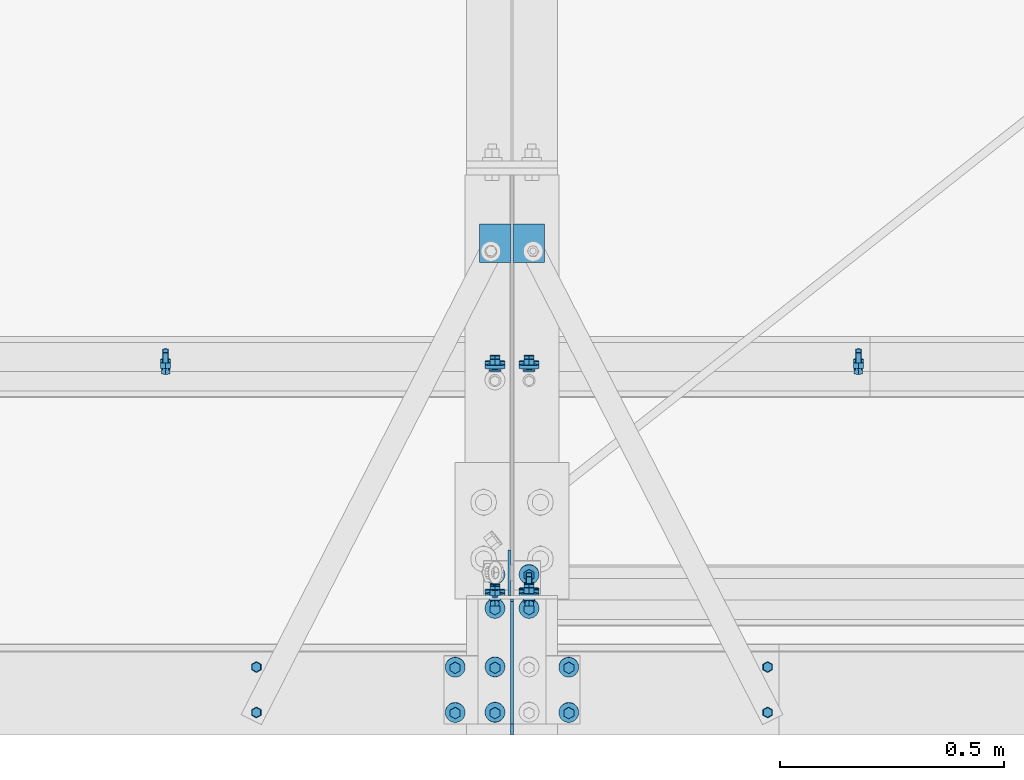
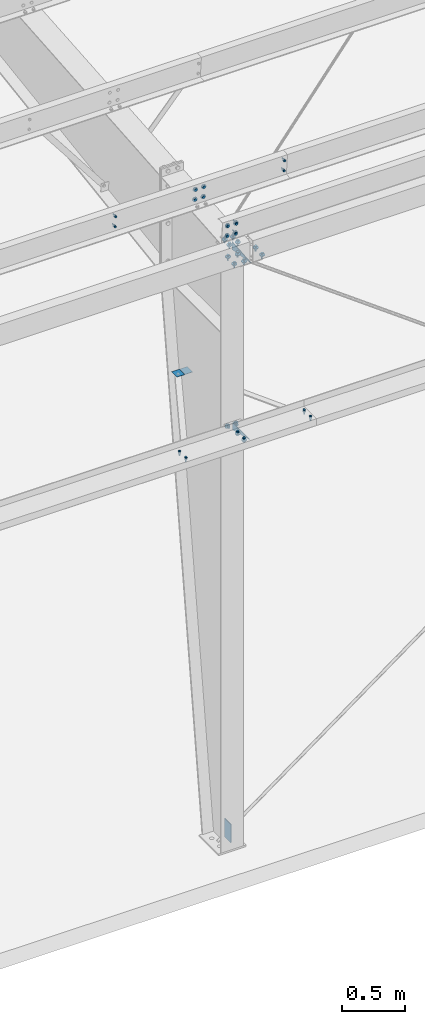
# One storey, part 75 of 185: 17 mechanical fasteners, 5 discrete accessories, 9 elements without a shape of their own.
"""IFC2X3 building model written with IfcOpenShell, lengths in millimetres."""

from ifc_helpers import new_model, si_unit, frame, origin_with_axes, origin_2d_with_axis, place, context, subcontext, project, spatial, polyline, rectangle, circle, outline, extrude, source, transform, mapped, material, type_object, element, aggregate, save


model = new_model("IFC2X3")

# Units and contexts
model_context = context("Model", 3, precision=1e-05, world=origin_with_axes())
body_context = subcontext(model_context, "Body", "Model", "MODEL_VIEW")
ifc_project = project(units=[si_unit("LENGTHUNIT", "METRE", prefix="MILLI"), si_unit("AREAUNIT", "SQUARE_METRE"), si_unit("VOLUMEUNIT", "CUBIC_METRE"), si_unit("MASSUNIT", "GRAM", prefix="KILO"), si_unit("TIMEUNIT", "SECOND"), si_unit("PLANEANGLEUNIT", "RADIAN"), si_unit("SOLIDANGLEUNIT", "STERADIAN"), si_unit("THERMODYNAMICTEMPERATUREUNIT", "DEGREE_CELSIUS"), si_unit("LUMINOUSINTENSITYUNIT", "LUMEN")], contexts=[model_context])

# Site, building, storey
site_placement = place(None, origin_with_axes())
site = spatial("IfcSite", under=ifc_project, at=site_placement, Name="Undefined", CompositionType="ELEMENT")
building_placement = place(site_placement, origin_with_axes())
building = spatial("IfcBuilding", under=site, at=building_placement, Name="Undefined", CompositionType="ELEMENT")
storey_placement = place(building_placement, origin_with_axes())
storey = spatial("IfcBuildingStorey", under=building, at=storey_placement, Name="Undefined", CompositionType="ELEMENT", Elevation=0.0)

# Assembly, mechanical fasteners
assembly_1_placement = place(storey_placement, origin_with_axes())
assembly_1 = element("IfcElementAssembly", 1, at=assembly_1_placement, inside=storey, Name="Steel Assembly", AssemblyPlace="NOTDEFINED", PredefinedType="RIGID_FRAME")
ifc_material_1 = material(Name="Undefined")
discrete_accessory_type_1 = type_object("IfcDiscreteAccessoryType", Name="Bolt assembly")
shared_shape_1 = source(origin_with_axes(), body_context, "Body", "SweptSolid", [
    extrude(circle(Radius=7.14374971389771, at=origin_2d_with_axis()), frame((0.0, -1.59000001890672, 0.0), z_axis=(0.0, 1.0, 0.0), x_axis=(1.0, 0.0, 0.0)), (0.0, 0.0, 1.0), 3.3),
    extrude(circle(Radius=13.4937496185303, at=origin_2d_with_axis()), frame((0.0, -5.5587500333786, 0.0), z_axis=(0.0, 1.0, 0.0), x_axis=(1.0, 0.0, 0.0)), (0.0, 0.0, 1.0), 4.0),
    extrude(circle(Radius=22.2250003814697, at=origin_2d_with_axis()), frame((0.0, 1.5900000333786, 0.0), z_axis=(0.0, 1.0, 0.0), x_axis=(1.0, 0.0, 0.0)), (0.0, 0.0, 1.0), 7.9),
    extrude(outline(polyline([(12.8316099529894, 0.0), (6.4158049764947, 11.1125001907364), (-6.4158049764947, 11.1125001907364), (-12.8316099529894, 0.0), (-6.4158049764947, -11.1125001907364), (6.4158049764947, -11.1125001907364), (12.8316099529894, 0.0)])), frame((0.0, 9.5275000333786, 0.0), z_axis=(0.0, 1.0, 0.0), x_axis=(1.0, 0.0, 0.0)), (0.0, 0.0, 1.0), 12.3),
])
mechanical_fastener_1_placement = place(assembly_1_placement, frame((30137.1, 307.870484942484, 6070.6797900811), z_axis=(1.0, 0.0, 0.0), x_axis=(0.0, 0.0830454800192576, -0.996545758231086)))
mechanical_fastener_1 = element("IfcMechanicalFastener", 2, at=mechanical_fastener_1_placement, type_object=discrete_accessory_type_1, material=ifc_material_1, Name="Bolt assembly", NominalDiameter=12.6999998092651, NominalLength=38.0999984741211, context=body_context, shape_type="MappedRepresentation", body=[
    mapped(shared_shape_1, transform((0.0, 0.0, 0.0))),
    mapped(shared_shape_1, transform((101.599998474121, 0.0, 0.0))),
])
mechanical_fastener_2_placement = place(assembly_1_placement, frame((30060.9, 307.870484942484, 6070.6797900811), z_axis=(1.0, 0.0, 0.0), x_axis=(0.0, 0.0830454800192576, -0.996545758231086)))
mechanical_fastener_2 = element("IfcMechanicalFastener", 3, at=mechanical_fastener_2_placement, type_object=discrete_accessory_type_1, material=ifc_material_1, Name="Bolt assembly", NominalDiameter=12.6999998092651, NominalLength=38.0999984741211, context=body_context, shape_type="MappedRepresentation", body=[
    mapped(shared_shape_1, transform((0.0, 0.0, 0.0))),
    mapped(shared_shape_1, transform((101.599998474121, 0.0, 0.0))),
])

# Assembly, mechanical fastener
assembly_2_placement = place(storey_placement, origin_with_axes())
assembly_2 = element("IfcElementAssembly", 4, at=assembly_2_placement, inside=storey, Name="Steel Assembly", AssemblyPlace="NOTDEFINED", PredefinedType="RIGID_FRAME")
mechanical_fastener_3_placement = place(assembly_2_placement, frame((30137.1, 818.861779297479, 6113.26239802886), z_axis=(1.0, 0.0, 0.0), x_axis=(0.0, 0.0830454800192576, -0.996545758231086)))
mechanical_fastener_3 = element("IfcMechanicalFastener", 5, at=mechanical_fastener_3_placement, type_object=discrete_accessory_type_1, material=ifc_material_1, Name="Bolt assembly", NominalDiameter=12.6999998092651, NominalLength=38.0999984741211, context=body_context, shape_type="MappedRepresentation", body=[
    mapped(shared_shape_1, transform((0.0, 0.0, 0.0))),
    mapped(shared_shape_1, transform((101.599998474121, 0.0, 0.0))),
])
aggregate(assembly_2, [mechanical_fastener_3])

assembly_3_placement = place(storey_placement, origin_with_axes())
assembly_3 = element("IfcElementAssembly", 6, at=assembly_3_placement, inside=storey, Name="Steel Assembly", AssemblyPlace="NOTDEFINED", PredefinedType="RIGID_FRAME")
mechanical_fastener_4_placement = place(assembly_3_placement, frame((30060.9, 818.861779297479, 6113.26239802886), z_axis=(1.0, 0.0, 0.0), x_axis=(0.0, 0.0830454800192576, -0.996545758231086)))
mechanical_fastener_4 = element("IfcMechanicalFastener", 7, at=mechanical_fastener_4_placement, type_object=discrete_accessory_type_1, material=ifc_material_1, Name="Bolt assembly", NominalDiameter=12.6999998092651, NominalLength=38.0999984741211, context=body_context, shape_type="MappedRepresentation", body=[
    mapped(shared_shape_1, transform((0.0, 0.0, 0.0))),
    mapped(shared_shape_1, transform((101.599998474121, 0.0, 0.0))),
])

# Assembly, discrete accessories
assembly_4_placement = place(storey_placement, origin_with_axes())
assembly_4 = element("IfcElementAssembly", 8, at=assembly_4_placement, inside=storey, Name="Steel Assembly", AssemblyPlace="NOTDEFINED", PredefinedType="RIGID_FRAME")
ifc_material_2 = material(Name="STEEL/55")
discrete_accessory_type_2 = type_object("IfcDiscreteAccessoryType", Name="FLANGE BRACE FLIP")
discrete_accessory_1_placement = place(assembly_4_placement, frame((30096.61875, 1100.1216921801, 4163.4569751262), z_axis=(0.0, -1.0, 0.0), x_axis=(-1.0, 0.0, 0.0)))
discrete_accessory_1 = element("IfcDiscreteAccessory", 9, at=discrete_accessory_1_placement, type_object=discrete_accessory_type_2, material=ifc_material_2, Name="FLANGE BRACE FLIP", ObjectType="PL1/8\"X2 3/4\"", context=body_context, shape_type="SweptSolid", body=[
    extrude(rectangle(XDim=3.416, YDim=85.725, at=origin_2d_with_axis()), frame((69.8499999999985, 0.0, 0.0), z_axis=(-1.0, 0.0, 0.0), x_axis=(0.0, -1.0, 0.0)), (0.0, 0.0, 1.0), 69.8),
])
discrete_accessory_2_placement = place(assembly_4_placement, frame((30101.38125, 1100.1216921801, 4163.4569751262), z_axis=(0.0, -1.0, 0.0), x_axis=(1.0, 0.0, 0.0)))
discrete_accessory_2 = element("IfcDiscreteAccessory", 10, at=discrete_accessory_2_placement, type_object=discrete_accessory_type_2, material=ifc_material_2, Name="FLANGE BRACE FLIP", ObjectType="PL1/8\"X2 3/4\"", context=body_context, shape_type="SweptSolid", body=[
    extrude(rectangle(XDim=3.416, YDim=85.725, at=origin_2d_with_axis()), frame((69.8499999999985, 0.0, 0.0), z_axis=(-1.0, 0.0, 0.0), x_axis=(0.0, -1.0, 0.0)), (0.0, 0.0, 1.0), 69.8),
])
discrete_accessory_type_3 = type_object("IfcDiscreteAccessoryType", Name="BACKUP PL SINGLE SLOT")
discrete_accessory_3_placement = place(assembly_4_placement, frame((30093.4437512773, 363.476847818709, 256.515722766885), z_axis=(-0.000896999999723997, -0.999999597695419, 0.0), x_axis=(0.0, 0.0, -1.0)))
discrete_accessory_3 = element("IfcDiscreteAccessory", 11, at=discrete_accessory_3_placement, type_object=discrete_accessory_type_3, material=ifc_material_2, Name="BACKUP PL SINGLE SLOT", ObjectType="FL1/4\"X4\"", context=body_context, shape_type="SweptSolid", body=[
    extrude(rectangle(XDim=6.35, YDim=101.6, at=origin_2d_with_axis()), frame((177.800000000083, 0.0, 0.0), z_axis=(-1.0, 0.0, 0.0), x_axis=(0.0, -1.0, 0.0)), (0.0, 0.0, 1.0), 177.8),
])

# Assembly, mechanical fasteners
assembly_5_placement = place(storey_placement, origin_with_axes())
assembly_5 = element("IfcElementAssembly", 12, at=assembly_5_placement, inside=storey, Name="Steel Assembly", AssemblyPlace="NOTDEFINED", PredefinedType="RIGID_FRAME")
shared_shape_2 = source(origin_with_axes(), body_context, "Body", "SweptSolid", [
    extrude(circle(Radius=7.14374971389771, at=origin_2d_with_axis()), frame((0.0, 0.0, 0.0), z_axis=(0.0, 1.0, 0.0), x_axis=(1.0, 0.0, 0.0)), (0.0, 0.0, 1.0), 4.9),
    extrude(outline(polyline([(12.8316099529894, 0.0), (6.4158049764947, 11.1125001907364), (-6.4158049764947, 11.1125001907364), (-12.8316099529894, 0.0), (-6.4158049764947, -11.1125001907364), (6.4158049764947, -11.1125001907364), (12.8316099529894, 0.0)])), frame((0.0, 4.76000382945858, 0.0), z_axis=(0.0, 1.0, 0.0), x_axis=(1.0, 0.0, 0.0)), (0.0, 0.0, 1.0), 12.3),
])
mechanical_fastener_5_placement = place(assembly_5_placement, frame((30060.9, 307.870484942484, 6070.6797900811), z_axis=(1.0, 0.0, 0.0), x_axis=(0.0, 0.0830454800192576, -0.996545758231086)))
mechanical_fastener_5 = element("IfcMechanicalFastener", 13, at=mechanical_fastener_5_placement, type_object=discrete_accessory_type_1, material=ifc_material_1, Name="Bolt assembly", NominalDiameter=12.6999998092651, NominalLength=50.7999992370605, context=body_context, shape_type="MappedRepresentation", body=[
    mapped(shared_shape_2, transform((0.0, 0.0, 0.0))),
    mapped(shared_shape_2, transform((101.599998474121, 0.0, 0.0))),
])
shared_shape_3 = source(origin_with_axes(), body_context, "Body", "SweptSolid", [
    extrude(circle(Radius=7.14374971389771, at=origin_2d_with_axis()), frame((0.0, 0.0, 0.0), z_axis=(0.0, 1.0, 0.0), x_axis=(1.0, 0.0, 0.0)), (0.0, 0.0, 1.0), 4.9),
    extrude(outline(polyline([(12.8316099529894, 0.0), (6.4158049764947, 11.1125001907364), (-6.4158049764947, 11.1125001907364), (-12.8316099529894, 0.0), (-6.4158049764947, -11.1125001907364), (6.4158049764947, -11.1125001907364), (12.8316099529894, 0.0)])), frame((0.0, -11.9062498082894, 0.0), z_axis=(0.0, 1.0, 0.0), x_axis=(1.0, 0.0, 0.0)), (0.0, 0.0, 1.0), 7.9),
    extrude(circle(Radius=6.34999990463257, at=origin_2d_with_axis()), frame((0.0, -3.96874999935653, 0.0), z_axis=(0.0, 1.0, 0.0), x_axis=(1.0, 0.0, 0.0)), (0.0, 0.0, 1.0), 50.8),
    extrude(circle(Radius=13.4937496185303, at=origin_2d_with_axis()), frame((0.0, -3.96874999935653, 0.0), z_axis=(0.0, 1.0, 0.0), x_axis=(1.0, 0.0, 0.0)), (0.0, 0.0, 1.0), 4.0),
    extrude(circle(Radius=22.2250003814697, at=origin_2d_with_axis()), frame((0.0, 4.76000382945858, 0.0), z_axis=(0.0, 1.0, 0.0), x_axis=(1.0, 0.0, 0.0)), (0.0, 0.0, 1.0), 7.9),
    extrude(outline(polyline([(12.8316099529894, 0.0), (6.4158049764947, 11.1125001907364), (-6.4158049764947, 11.1125001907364), (-12.8316099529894, 0.0), (-6.4158049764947, -11.1125001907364), (6.4158049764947, -11.1125001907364), (12.8316099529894, 0.0)])), frame((0.0, 12.6975038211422, 0.0), z_axis=(0.0, 1.0, 0.0), x_axis=(1.0, 0.0, 0.0)), (0.0, 0.0, 1.0), 12.3),
])
mechanical_fastener_6_placement = place(assembly_5_placement, frame((30137.1, 307.870484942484, 6070.6797900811), z_axis=(1.0, 0.0, 0.0), x_axis=(0.0, 0.0830454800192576, -0.996545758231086)))
mechanical_fastener_6 = element("IfcMechanicalFastener", 14, at=mechanical_fastener_6_placement, type_object=discrete_accessory_type_1, material=ifc_material_1, Name="Bolt assembly", NominalDiameter=12.6999998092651, NominalLength=50.7999992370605, context=body_context, shape_type="MappedRepresentation", body=[
    mapped(shared_shape_3, transform((0.0, 0.0, 0.0))),
    mapped(shared_shape_3, transform((101.599998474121, 0.0, 0.0))),
])
aggregate(assembly_5, [mechanical_fastener_5, mechanical_fastener_6])

# Assembly, discrete accessory, mechanical fasteners
assembly_6_placement = place(storey_placement, origin_with_axes())
assembly_6 = element("IfcElementAssembly", 15, at=assembly_6_placement, inside=storey, Name="Steel Assembly", AssemblyPlace="NOTDEFINED", PredefinedType="RIGID_FRAME")
discrete_accessory_type_4 = type_object("IfcDiscreteAccessoryType", Name="Gusett")
discrete_accessory_4_placement = place(assembly_6_placement, frame((30099.0, 298.449999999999, 4089.4), z_axis=(1.0, 0.0, 0.0), x_axis=(0.0, 0.0, 1.0)))
discrete_accessory_4 = element("IfcDiscreteAccessory", 16, at=discrete_accessory_4_placement, type_object=discrete_accessory_type_4, material=ifc_material_2, Name="Gusett", ObjectType="FL1/4\"X2 3/4\"", context=body_context, shape_type="SweptSolid", body=[
    extrude(outline(polyline([(0.0, 0.0), (69.8499984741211, 0.0), (69.8499984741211, 273.049987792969), (0.0, 0.0)])), frame((0.0, 0.0, -3.175), z_axis=(0.0, 0.0, 1.0), x_axis=(1.0, 0.0, 0.0)), (0.0, 0.0, 1.0), 6.4),
])
shared_shape_4 = source(origin_with_axes(), body_context, "Body", "SweptSolid", [
    extrude(circle(Radius=7.14374971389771, at=origin_2d_with_axis()), frame((0.0, -0.1, 0.0), z_axis=(0.0, 1.0, 0.0), x_axis=(1.0, 0.0, 0.0)), (0.0, 0.0, 1.0), 8.0),
    extrude(circle(Radius=7.14374971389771, at=origin_2d_with_axis()), frame((0.0, -6.24999999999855, 0.0), z_axis=(0.0, 1.0, 0.0), x_axis=(1.0, 0.0, 0.0)), (0.0, 0.0, 1.0), 6.4),
    extrude(outline(polyline([(10.9985221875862, 0.0), (5.4992610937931, 9.52499961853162), (-5.4992610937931, 9.52499961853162), (-10.9985221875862, 0.0), (-5.4992610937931, -9.52499961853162), (5.4992610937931, -9.52499961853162), (10.9985221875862, 0.0)])), frame((0.0, -15.8750000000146, 0.0), z_axis=(0.0, 1.0, 0.0), x_axis=(1.0, 0.0, 0.0)), (0.0, 0.0, 1.0), 9.5),
    extrude(circle(Radius=6.34999990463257, at=origin_2d_with_axis()), frame((0.0, -6.34999953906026, 0.0), z_axis=(0.0, 1.0, 0.0), x_axis=(1.0, 0.0, 0.0)), (0.0, 0.0, 1.0), 38.1),
    extrude(circle(Radius=22.2250003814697, at=origin_2d_with_axis()), frame((0.0, 7.87399999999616, 0.0), z_axis=(0.0, 1.0, 0.0), x_axis=(1.0, 0.0, 0.0)), (0.0, 0.0, 1.0), 7.9),
    extrude(outline(polyline([(12.8316099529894, 0.0), (6.4158049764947, 11.1125001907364), (-6.4158049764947, 11.1125001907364), (-12.8316099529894, 0.0), (-6.4158049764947, -11.1125001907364), (6.4158049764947, -11.1125001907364), (12.8316099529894, 0.0)])), frame((0.0, 15.8114999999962, 0.0), z_axis=(0.0, 1.0, 0.0), x_axis=(1.0, 0.0, 0.0)), (0.0, 0.0, 1.0), 12.3),
])
mechanical_fastener_7_placement = place(assembly_6_placement, frame((30099.0, 304.8, 4127.5), z_axis=(1.0, 0.0, 0.0), x_axis=(0.0, 0.0, -1.0)))
mechanical_fastener_7 = element("IfcMechanicalFastener", 17, at=mechanical_fastener_7_placement, type_object=discrete_accessory_type_1, material=ifc_material_1, Name="Bolt assembly", NominalDiameter=12.6999998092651, NominalLength=38.0999984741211, context=body_context, shape_type="MappedRepresentation", body=[
    mapped(shared_shape_4, transform((0.0, 0.0, -38.0999984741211))),
    mapped(shared_shape_4, transform((0.0, 0.0, 38.0999984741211))),
])
shared_shape_5 = source(origin_with_axes(), body_context, "Body", "SweptSolid", [
    extrude(circle(Radius=7.14374971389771, at=origin_2d_with_axis()), frame((0.0, -1.4900000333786, 0.0), z_axis=(0.0, 1.0, 0.0), x_axis=(1.0, 0.0, 0.0)), (0.0, 0.0, 1.0), 3.2),
    extrude(circle(Radius=7.14374971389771, at=origin_2d_with_axis()), frame((0.0, -0.1, 0.0), z_axis=(0.0, 1.0, 0.0), x_axis=(1.0, 0.0, 0.0)), (0.0, 0.0, 1.0), 6.5),
    extrude(circle(Radius=7.14374971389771, at=origin_2d_with_axis()), frame((0.0, -1.4900000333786, 0.0), z_axis=(0.0, 1.0, 0.0), x_axis=(1.0, 0.0, 0.0)), (0.0, 0.0, 1.0), 3.2),
    extrude(outline(polyline([(10.9985221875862, 0.0), (5.4992610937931, 9.52499961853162), (-5.4992610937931, 9.52499961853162), (-10.9985221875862, 0.0), (-5.4992610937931, -9.52499961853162), (5.4992610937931, -9.52499961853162), (10.9985221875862, 0.0)])), frame((0.0, -15.0837496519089, 0.0), z_axis=(0.0, 1.0, 0.0), x_axis=(1.0, 0.0, 0.0)), (0.0, 0.0, 1.0), 9.5),
    extrude(circle(Radius=6.34999990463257, at=origin_2d_with_axis()), frame((0.0, -5.5587500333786, 0.0), z_axis=(0.0, 1.0, 0.0), x_axis=(1.0, 0.0, 0.0)), (0.0, 0.0, 1.0), 38.1),
    extrude(circle(Radius=13.4937496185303, at=origin_2d_with_axis()), frame((0.0, -5.5587500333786, 0.0), z_axis=(0.0, 1.0, 0.0), x_axis=(1.0, 0.0, 0.0)), (0.0, 0.0, 1.0), 4.0),
    extrude(circle(Radius=22.2250003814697, at=origin_2d_with_axis()), frame((0.0, 6.35000000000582, 0.0), z_axis=(0.0, 1.0, 0.0), x_axis=(1.0, 0.0, 0.0)), (0.0, 0.0, 1.0), 7.9),
    extrude(outline(polyline([(12.8316099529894, 0.0), (6.4158049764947, 11.1125001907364), (-6.4158049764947, 11.1125001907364), (-12.8316099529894, 0.0), (-6.4158049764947, -11.1125001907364), (6.4158049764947, -11.1125001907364), (12.8316099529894, 0.0)])), frame((0.0, 14.2875000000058, 0.0), z_axis=(0.0, 1.0, 0.0), x_axis=(1.0, 0.0, 0.0)), (0.0, 0.0, 1.0), 12.3),
])
mechanical_fastener_8_placement = place(assembly_6_placement, frame((30060.9, 50.7999992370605, 4165.6), z_axis=(-1.0, 0.0, 0.0), x_axis=(0.0, 1.0, 0.0)))
mechanical_fastener_8 = element("IfcMechanicalFastener", 18, at=mechanical_fastener_8_placement, type_object=discrete_accessory_type_1, material=ifc_material_1, Name="Bolt assembly", NominalDiameter=12.6999998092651, NominalLength=38.0999984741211, context=body_context, shape_type="MappedRepresentation", body=[
    mapped(shared_shape_5, transform((0.0, 0.0, 0.0))),
    mapped(shared_shape_5, transform((101.599998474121, 0.0, 0.0))),
])
aggregate(assembly_6, [mechanical_fastener_7, mechanical_fastener_8, discrete_accessory_4])

# Assembly, mechanical fasteners
assembly_7_placement = place(storey_placement, origin_with_axes())
assembly_7 = element("IfcElementAssembly", 19, at=assembly_7_placement, inside=storey, Name="Steel Assembly", AssemblyPlace="NOTDEFINED", PredefinedType="RIGID_FRAME")
shared_shape_6 = source(origin_with_axes(), body_context, "Body", "SweptSolid", [
    extrude(circle(Radius=7.14374971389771, at=origin_2d_with_axis()), frame((0.0, -1.4900000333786, 0.0), z_axis=(0.0, 1.0, 0.0), x_axis=(1.0, 0.0, 0.0)), (0.0, 0.0, 1.0), 3.2),
    extrude(circle(Radius=7.14374971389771, at=origin_2d_with_axis()), frame((0.0, -1.4900000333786, 0.0), z_axis=(0.0, 1.0, 0.0), x_axis=(1.0, 0.0, 0.0)), (0.0, 0.0, 1.0), 3.2),
    extrude(outline(polyline([(10.9985221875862, 0.0), (5.4992610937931, 9.52499961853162), (-5.4992610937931, 9.52499961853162), (-10.9985221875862, 0.0), (-5.4992610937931, -9.52499961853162), (5.4992610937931, -9.52499961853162), (10.9985221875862, 0.0)])), frame((0.0, -11.1149996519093, 0.0), z_axis=(0.0, 1.0, 0.0), x_axis=(1.0, 0.0, 0.0)), (0.0, 0.0, 1.0), 9.5),
    extrude(circle(Radius=6.34999990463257, at=origin_2d_with_axis()), frame((0.0, -1.59000001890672, 0.0), z_axis=(0.0, 1.0, 0.0), x_axis=(1.0, 0.0, 0.0)), (0.0, 0.0, 1.0), 38.1),
    extrude(outline(polyline([(12.8316099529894, 0.0), (6.4158049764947, 11.1125001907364), (-6.4158049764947, 11.1125001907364), (-12.8316099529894, 0.0), (-6.4158049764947, -11.1125001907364), (6.4158049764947, -11.1125001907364), (12.8316099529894, 0.0)])), frame((0.0, 1.5900000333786, 0.0), z_axis=(0.0, 1.0, 0.0), x_axis=(1.0, 0.0, 0.0)), (0.0, 0.0, 1.0), 12.3),
])
mechanical_fastener_9_placement = place(assembly_7_placement, frame((30670.5, 50.8, 4165.6), z_axis=(-1.0, 0.0, 0.0), x_axis=(0.0, 1.0, 0.0)))
mechanical_fastener_9 = element("IfcMechanicalFastener", 20, at=mechanical_fastener_9_placement, type_object=discrete_accessory_type_1, material=ifc_material_1, Name="Bolt assembly", NominalDiameter=12.6999998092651, NominalLength=38.0999984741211, context=body_context, shape_type="MappedRepresentation", body=[
    mapped(shared_shape_6, transform((0.0, 0.0, 0.0))),
    mapped(shared_shape_6, transform((101.599998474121, 0.0, 0.0))),
])
mechanical_fastener_10_placement = place(assembly_7_placement, frame((29527.5, 50.8, 4165.6), z_axis=(-1.0, 0.0, 0.0), x_axis=(0.0, 1.0, 0.0)))
mechanical_fastener_10 = element("IfcMechanicalFastener", 21, at=mechanical_fastener_10_placement, type_object=discrete_accessory_type_1, material=ifc_material_1, Name="Bolt assembly", NominalDiameter=12.6999998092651, NominalLength=38.0999984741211, context=body_context, shape_type="MappedRepresentation", body=[
    mapped(shared_shape_6, transform((0.0, 0.0, 0.0))),
    mapped(shared_shape_6, transform((101.599998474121, 0.0, 0.0))),
])
aggregate(assembly_7, [mechanical_fastener_9, mechanical_fastener_10])

# Mechanical fastener
mechanical_fastener_11_placement = place(assembly_3_placement, frame((30873.7, 818.861779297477, 6113.26239802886), z_axis=(1.0, 0.0, 0.0), x_axis=(0.0, 0.0830454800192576, -0.996545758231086)))
mechanical_fastener_11 = element("IfcMechanicalFastener", 22, at=mechanical_fastener_11_placement, type_object=discrete_accessory_type_1, material=ifc_material_1, Name="Bolt assembly", NominalDiameter=12.6999998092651, NominalLength=38.0999984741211, context=body_context, shape_type="MappedRepresentation", body=[
    mapped(shared_shape_6, transform((0.0, 0.0, 0.0))),
    mapped(shared_shape_6, transform((101.599998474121, 0.0, 0.0))),
])

mechanical_fastener_12_placement = place(assembly_3_placement, frame((29324.3, 818.861779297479, 6113.26239802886), z_axis=(1.0, 0.0, 0.0), x_axis=(0.0, 0.0830454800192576, -0.996545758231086)))
mechanical_fastener_12 = element("IfcMechanicalFastener", 23, at=mechanical_fastener_12_placement, type_object=discrete_accessory_type_1, material=ifc_material_1, Name="Bolt assembly", NominalDiameter=12.6999998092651, NominalLength=38.0999984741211, context=body_context, shape_type="MappedRepresentation", body=[
    mapped(shared_shape_6, transform((0.0, 0.0, 0.0))),
    mapped(shared_shape_6, transform((101.599998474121, 0.0, 0.0))),
])

aggregate(assembly_3, [mechanical_fastener_4, mechanical_fastener_11, mechanical_fastener_12])

# Discrete accessory
discrete_accessory_type_5 = type_object("IfcDiscreteAccessoryType", Name="Gusset")
discrete_accessory_5_placement = place(assembly_4_placement, frame((30099.0, 304.8, 5909.51790803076), z_axis=(1.0, 0.0, 0.0), x_axis=(0.0, -0.996548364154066, -0.0830142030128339)))
discrete_accessory_5 = element("IfcDiscreteAccessory", 24, at=discrete_accessory_5_placement, type_object=discrete_accessory_type_5, material=ifc_material_2, Name="Gusset", ObjectType="1/4\"X2 15/16\"", context=body_context, shape_type="SweptSolid", body=[
    extrude(outline(polyline([(0.0, 0.0), (305.244781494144, -7.45785655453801e-11), (6.32568216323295, 75.9369888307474), (0.0, 0.0)])), frame((0.0, 0.0, -3.175), z_axis=(0.0, 0.0, 1.0), x_axis=(1.0, 0.0, 0.0)), (0.0, 0.0, 1.0), 6.4),
])

# Mechanical fastener
shared_shape_7 = source(origin_with_axes(), body_context, "Body", "SweptSolid", [
    extrude(circle(Radius=7.14374971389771, at=origin_2d_with_axis()), frame((0.0, -0.1, 0.0), z_axis=(0.0, 1.0, 0.0), x_axis=(1.0, 0.0, 0.0)), (0.0, 0.0, 1.0), 8.1),
    extrude(circle(Radius=7.14374971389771, at=origin_2d_with_axis()), frame((0.0, -3.08000006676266, 0.0), z_axis=(0.0, 1.0, 0.0), x_axis=(1.0, 0.0, 0.0)), (0.0, 0.0, 1.0), 3.2),
    extrude(outline(polyline([(12.8316099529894, 0.0), (6.4158049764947, 11.1125001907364), (-6.4158049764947, 11.1125001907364), (-12.8316099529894, 0.0), (-6.4158049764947, -11.1125001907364), (6.4158049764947, -11.1125001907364), (12.8316099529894, 0.0)])), frame((0.0, -11.1175003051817, 0.0), z_axis=(0.0, 1.0, 0.0), x_axis=(1.0, 0.0, 0.0)), (0.0, 0.0, 1.0), 7.9),
    extrude(circle(Radius=6.34999990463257, at=origin_2d_with_axis()), frame((0.0, -3.18000030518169, 0.0), z_axis=(0.0, 1.0, 0.0), x_axis=(1.0, 0.0, 0.0)), (0.0, 0.0, 1.0), 50.8),
    extrude(circle(Radius=22.2250003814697, at=origin_2d_with_axis()), frame((0.0, 7.95019856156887, 0.0), z_axis=(0.0, 1.0, 0.0), x_axis=(1.0, 0.0, 0.0)), (0.0, 0.0, 1.0), 7.9),
    extrude(outline(polyline([(12.8316099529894, 0.0), (6.4158049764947, 11.1125001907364), (-6.4158049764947, 11.1125001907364), (-12.8316099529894, 0.0), (-6.4158049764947, -11.1125001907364), (6.4158049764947, -11.1125001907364), (12.8316099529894, 0.0)])), frame((0.0, 15.8876985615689, 0.0), z_axis=(0.0, 1.0, 0.0), x_axis=(1.0, 0.0, 0.0)), (0.0, 0.0, 1.0), 12.3),
])
mechanical_fastener_13_placement = place(assembly_1_placement, frame((30099.0, 282.558222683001, 5915.64218374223), z_axis=(1.0, 0.0, 0.0), x_axis=(0.0, -0.996545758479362, -0.0830454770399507)))
mechanical_fastener_13 = element("IfcMechanicalFastener", 25, at=mechanical_fastener_13_placement, type_object=discrete_accessory_type_1, material=ifc_material_1, Name="Bolt assembly", NominalDiameter=12.6999998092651, NominalLength=50.7999992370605, context=body_context, shape_type="MappedRepresentation", body=[
    mapped(shared_shape_7, transform((0.0, 0.0, -38.0999984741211))),
    mapped(shared_shape_7, transform((0.0, 0.0, 38.0999984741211))),
])

aggregate(assembly_1, [mechanical_fastener_1, mechanical_fastener_2, mechanical_fastener_13])

shared_shape_8 = source(origin_with_axes(), body_context, "Body", "SweptSolid", [
    extrude(circle(Radius=7.14374971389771, at=origin_2d_with_axis()), frame((0.0, -4.65999985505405, 0.0), z_axis=(0.0, 1.0, 0.0), x_axis=(1.0, 0.0, 0.0)), (0.0, 0.0, 1.0), 4.8),
    extrude(circle(Radius=7.14374971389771, at=origin_2d_with_axis()), frame((0.0, -0.1, 0.0), z_axis=(0.0, 1.0, 0.0), x_axis=(1.0, 0.0, 0.0)), (0.0, 0.0, 1.0), 8.1),
    extrude(outline(polyline([(12.8316099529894, 0.0), (6.4158049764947, 11.1125001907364), (-6.4158049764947, 11.1125001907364), (-12.8316099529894, 0.0), (-6.4158049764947, -11.1125001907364), (6.4158049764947, -11.1125001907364), (12.8316099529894, 0.0)])), frame((0.0, -12.697499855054, 0.0), z_axis=(0.0, 1.0, 0.0), x_axis=(1.0, 0.0, 0.0)), (0.0, 0.0, 1.0), 7.9),
    extrude(circle(Radius=6.34999990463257, at=origin_2d_with_axis()), frame((0.0, -4.75999985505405, 0.0), z_axis=(0.0, 1.0, 0.0), x_axis=(1.0, 0.0, 0.0)), (0.0, 0.0, 1.0), 50.8),
    extrude(circle(Radius=22.2250003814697, at=origin_2d_with_axis()), frame((0.0, 7.95019856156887, 0.0), z_axis=(0.0, 1.0, 0.0), x_axis=(1.0, 0.0, 0.0)), (0.0, 0.0, 1.0), 7.9),
    extrude(outline(polyline([(12.8316099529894, 0.0), (6.4158049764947, 11.1125001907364), (-6.4158049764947, 11.1125001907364), (-12.8316099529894, 0.0), (-6.4158049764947, -11.1125001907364), (6.4158049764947, -11.1125001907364), (12.8316099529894, 0.0)])), frame((0.0, 15.8876985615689, 0.0), z_axis=(0.0, 1.0, 0.0), x_axis=(1.0, 0.0, 0.0)), (0.0, 0.0, 1.0), 12.3),
])
mechanical_fastener_14_placement = place(assembly_4_placement, frame((30099.0, 358.495009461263, 5921.97024930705), z_axis=(-1.0, 0.0, 0.0), x_axis=(0.0, 0.996545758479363, 0.0830454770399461)))
mechanical_fastener_14 = element("IfcMechanicalFastener", 26, at=mechanical_fastener_14_placement, type_object=discrete_accessory_type_1, material=ifc_material_1, Name="Bolt assembly", NominalDiameter=12.6999998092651, NominalLength=50.7999992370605, context=body_context, shape_type="MappedRepresentation", body=[
    mapped(shared_shape_8, transform((0.0, 0.0, -38.0999984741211))),
    mapped(shared_shape_8, transform((0.0, 0.0, 38.0999984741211))),
])

aggregate(assembly_4, [discrete_accessory_3, discrete_accessory_1, discrete_accessory_2, discrete_accessory_5, mechanical_fastener_14])

# Assembly, mechanical fasteners
assembly_8_placement = place(storey_placement, origin_with_axes())
assembly_8 = element("IfcElementAssembly", 27, at=assembly_8_placement, inside=storey, Name="Steel Assembly", AssemblyPlace="NOTDEFINED", PredefinedType="RIGID_FRAME")
shared_shape_9 = source(origin_with_axes(), body_context, "Body", "SweptSolid", [
    extrude(circle(Radius=7.14499998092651, at=origin_2d_with_axis()), frame((0.0, -7.8375000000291, 0.0), z_axis=(0.0, 1.0, 0.0), x_axis=(1.0, 0.0, 0.0)), (0.0, 0.0, 1.0), 6.4),
    extrude(circle(Radius=7.14499998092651, at=origin_2d_with_axis()), frame((0.0, -1.58749999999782, 0.0), z_axis=(0.0, 1.0, 0.0), x_axis=(1.0, 0.0, 0.0)), (0.0, 0.0, 1.0), 1.6),
    extrude(circle(Radius=7.14499998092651, at=origin_2d_with_axis()), frame((0.0, -0.1, 0.0), z_axis=(0.0, 1.0, 0.0), x_axis=(1.0, 0.0, 0.0)), (0.0, 0.0, 1.0), 8.1),
    extrude(outline(polyline([(12.8316099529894, 0.0), (6.4158049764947, 11.1125001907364), (-6.4158049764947, 11.1125001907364), (-12.8316099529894, 0.0), (-6.4158049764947, -11.1125001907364), (6.4158049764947, -11.1125001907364), (12.8316099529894, 0.0)])), frame((0.0, -15.8750000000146, 0.0), z_axis=(0.0, 1.0, 0.0), x_axis=(1.0, 0.0, 0.0)), (0.0, 0.0, 1.0), 7.9),
    extrude(circle(Radius=6.34999990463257, at=origin_2d_with_axis()), frame((0.0, -7.93749389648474, 0.0), z_axis=(0.0, 1.0, 0.0), x_axis=(1.0, 0.0, 0.0)), (0.0, 0.0, 1.0), 50.8),
    extrude(circle(Radius=22.2250003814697, at=origin_2d_with_axis()), frame((0.0, 7.95019856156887, 0.0), z_axis=(0.0, 1.0, 0.0), x_axis=(1.0, 0.0, 0.0)), (0.0, 0.0, 1.0), 7.9),
    extrude(outline(polyline([(12.8316099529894, 0.0), (6.4158049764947, 11.1125001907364), (-6.4158049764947, 11.1125001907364), (-12.8316099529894, 0.0), (-6.4158049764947, -11.1125001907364), (6.4158049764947, -11.1125001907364), (12.8316099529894, 0.0)])), frame((0.0, 15.8876985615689, 0.0), z_axis=(0.0, 1.0, 0.0), x_axis=(1.0, 0.0, 0.0)), (0.0, 0.0, 1.0), 12.3),
])
mechanical_fastener_15_placement = place(assembly_8_placement, frame((30060.9, 50.6245237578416, 5896.31437545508), z_axis=(-1.0, 0.0, 0.0), x_axis=(0.0, 0.996545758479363, 0.0830454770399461)))
mechanical_fastener_15 = element("IfcMechanicalFastener", 28, at=mechanical_fastener_15_placement, type_object=discrete_accessory_type_1, material=ifc_material_1, Name="Bolt assembly", NominalDiameter=12.6999998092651, NominalLength=50.7999992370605, context=body_context, shape_type="MappedRepresentation", body=[
    mapped(shared_shape_9, transform((0.0, 0.0, 0.0))),
    mapped(shared_shape_9, transform((101.599998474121, 0.0, 0.0))),
])
shared_shape_10 = source(origin_with_axes(), body_context, "Body", "SweptSolid", [
    extrude(circle(Radius=7.14499998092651, at=origin_2d_with_axis()), frame((0.0, -7.8375000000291, 0.0), z_axis=(0.0, 1.0, 0.0), x_axis=(1.0, 0.0, 0.0)), (0.0, 0.0, 1.0), 6.4),
    extrude(circle(Radius=7.14499998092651, at=origin_2d_with_axis()), frame((0.0, -1.68750355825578, 0.0), z_axis=(0.0, 1.0, 0.0), x_axis=(1.0, 0.0, 0.0)), (0.0, 0.0, 1.0), 1.7),
    extrude(outline(polyline([(12.8316099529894, 0.0), (6.4158049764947, 11.1125001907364), (-6.4158049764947, 11.1125001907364), (-12.8316099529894, 0.0), (-6.4158049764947, -11.1125001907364), (6.4158049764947, -11.1125001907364), (12.8316099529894, 0.0)])), frame((0.0, -15.8750000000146, 0.0), z_axis=(0.0, 1.0, 0.0), x_axis=(1.0, 0.0, 0.0)), (0.0, 0.0, 1.0), 7.9),
    extrude(circle(Radius=6.34999990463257, at=origin_2d_with_axis()), frame((0.0, -7.93749389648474, 0.0), z_axis=(0.0, 1.0, 0.0), x_axis=(1.0, 0.0, 0.0)), (0.0, 0.0, 1.0), 50.8),
    extrude(circle(Radius=22.2250003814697, at=origin_2d_with_axis()), frame((0.0, 0.0, 0.0), z_axis=(0.0, 1.0, 0.0), x_axis=(1.0, 0.0, 0.0)), (0.0, 0.0, 1.0), 7.9),
    extrude(outline(polyline([(12.8316099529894, 0.0), (6.4158049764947, 11.1125001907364), (-6.4158049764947, 11.1125001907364), (-12.8316099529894, 0.0), (-6.4158049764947, -11.1125001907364), (6.4158049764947, -11.1125001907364), (12.8316099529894, 0.0)])), frame((0.0, 7.93750000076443, 0.0), z_axis=(0.0, 1.0, 0.0), x_axis=(1.0, 0.0, 0.0)), (0.0, 0.0, 1.0), 12.3),
])
mechanical_fastener_16_placement = place(assembly_8_placement, frame((29972.0, 50.6245237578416, 5896.31437545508), z_axis=(-1.0, 0.0, 0.0), x_axis=(0.0, 0.996545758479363, 0.0830454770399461)))
mechanical_fastener_16 = element("IfcMechanicalFastener", 29, at=mechanical_fastener_16_placement, type_object=discrete_accessory_type_1, material=ifc_material_1, Name="Bolt assembly", NominalDiameter=12.6999998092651, NominalLength=50.7999992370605, context=body_context, shape_type="MappedRepresentation", body=[
    mapped(shared_shape_10, transform((0.0, 0.0, 0.0))),
    mapped(shared_shape_10, transform((101.599998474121, 0.0, 0.0))),
])
aggregate(assembly_8, [mechanical_fastener_15, mechanical_fastener_16])

# Assembly, mechanical fastener
assembly_9_placement = place(storey_placement, origin_with_axes())
assembly_9 = element("IfcElementAssembly", 30, at=assembly_9_placement, inside=storey, Name="Steel Assembly", AssemblyPlace="NOTDEFINED", PredefinedType="RIGID_FRAME")
shared_shape_11 = source(origin_with_axes(), body_context, "Body", "SweptSolid", [
    extrude(circle(Radius=7.14374971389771, at=origin_2d_with_axis()), frame((0.0, -7.8375000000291, 0.0), z_axis=(0.0, 1.0, 0.0), x_axis=(1.0, 0.0, 0.0)), (0.0, 0.0, 1.0), 6.4),
    extrude(circle(Radius=7.14374971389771, at=origin_2d_with_axis()), frame((0.0, -1.68750355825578, 0.0), z_axis=(0.0, 1.0, 0.0), x_axis=(1.0, 0.0, 0.0)), (0.0, 0.0, 1.0), 1.7),
    extrude(outline(polyline([(12.8316099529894, 0.0), (6.4158049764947, 11.1125001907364), (-6.4158049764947, 11.1125001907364), (-12.8316099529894, 0.0), (-6.4158049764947, -11.1125001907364), (6.4158049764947, -11.1125001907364), (12.8316099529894, 0.0)])), frame((0.0, -15.8750000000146, 0.0), z_axis=(0.0, 1.0, 0.0), x_axis=(1.0, 0.0, 0.0)), (0.0, 0.0, 1.0), 7.9),
    extrude(circle(Radius=6.34999990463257, at=origin_2d_with_axis()), frame((0.0, -7.93749389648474, 0.0), z_axis=(0.0, 1.0, 0.0), x_axis=(1.0, 0.0, 0.0)), (0.0, 0.0, 1.0), 50.8),
    extrude(circle(Radius=22.2250003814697, at=origin_2d_with_axis()), frame((0.0, 0.0, 0.0), z_axis=(0.0, 1.0, 0.0), x_axis=(1.0, 0.0, 0.0)), (0.0, 0.0, 1.0), 7.9),
    extrude(outline(polyline([(12.8316099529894, 0.0), (6.4158049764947, 11.1125001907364), (-6.4158049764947, 11.1125001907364), (-12.8316099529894, 0.0), (-6.4158049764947, -11.1125001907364), (6.4158049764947, -11.1125001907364), (12.8316099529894, 0.0)])), frame((0.0, 7.93750000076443, 0.0), z_axis=(0.0, 1.0, 0.0), x_axis=(1.0, 0.0, 0.0)), (0.0, 0.0, 1.0), 12.3),
])
mechanical_fastener_17_placement = place(assembly_9_placement, frame((30226.0, 50.6245237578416, 5896.31437545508), z_axis=(-1.0, 0.0, 0.0), x_axis=(0.0, 0.996545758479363, 0.0830454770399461)))
mechanical_fastener_17 = element("IfcMechanicalFastener", 31, at=mechanical_fastener_17_placement, type_object=discrete_accessory_type_1, material=ifc_material_1, Name="Bolt assembly", NominalDiameter=12.6999998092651, NominalLength=50.7999992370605, context=body_context, shape_type="MappedRepresentation", body=[
    mapped(shared_shape_11, transform((0.0, 0.0, 0.0))),
    mapped(shared_shape_11, transform((101.599998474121, 0.0, 0.0))),
])
aggregate(assembly_9, [mechanical_fastener_17])

save(model, "model.ifc")
